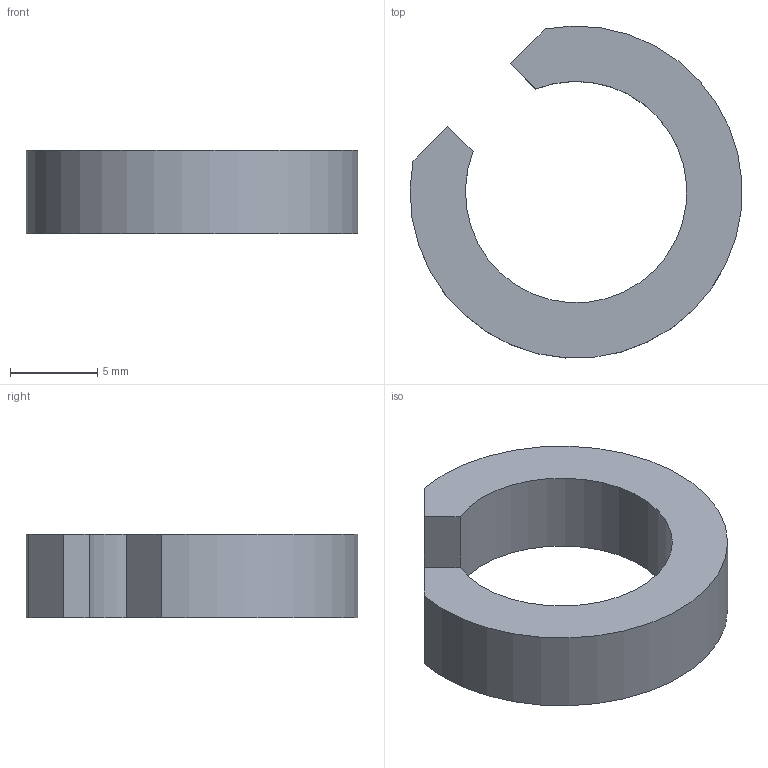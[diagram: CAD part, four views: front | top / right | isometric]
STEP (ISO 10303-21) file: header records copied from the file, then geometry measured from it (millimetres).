
FILE_DESCRIPTION(/* description */ (''),/* implementation_level */ '2;1');
FILE_NAME(/* name */ 'F:\Google Drive\Research\3d Printer Research\Feedstock Grinder\Ginder Parts\blade shaft spacer.step',/* time_stamp */ '2016-08-18T22:22:29-07:00',/* author */ ('Brenton'),/* organization */ (''),/* preprocessor_version */ 'ST-DEVELOPER v15.6',/* originating_system */ 'Autodesk Inventor 2015',/* authorisation */ '');
FILE_SCHEMA (('AUTOMOTIVE_DESIGN { 1 0 10303 214 3 1 1 }'));
Length unit declared in the file: inch
Products named in the file (1): blade shaft spacer
Bounding box: 19.03 x 19.03 x 4.76 mm (x, y, z)
Volume: 655.8 mm3; surface area: 717.8 mm2
Topology: 1 solids, 1 shells, 8 faces, 18 edges, 12 vertices
Faces by surface type: plane 6, cylinder 2
Entity records: 252 total; most frequent: DIRECTION 40, CARTESIAN_POINT 39, ORIENTED_EDGE 36, EDGE_CURVE 18, LINE 14, VECTOR 14, AXIS2_PLACEMENT_3D 13, VERTEX_POINT 12
